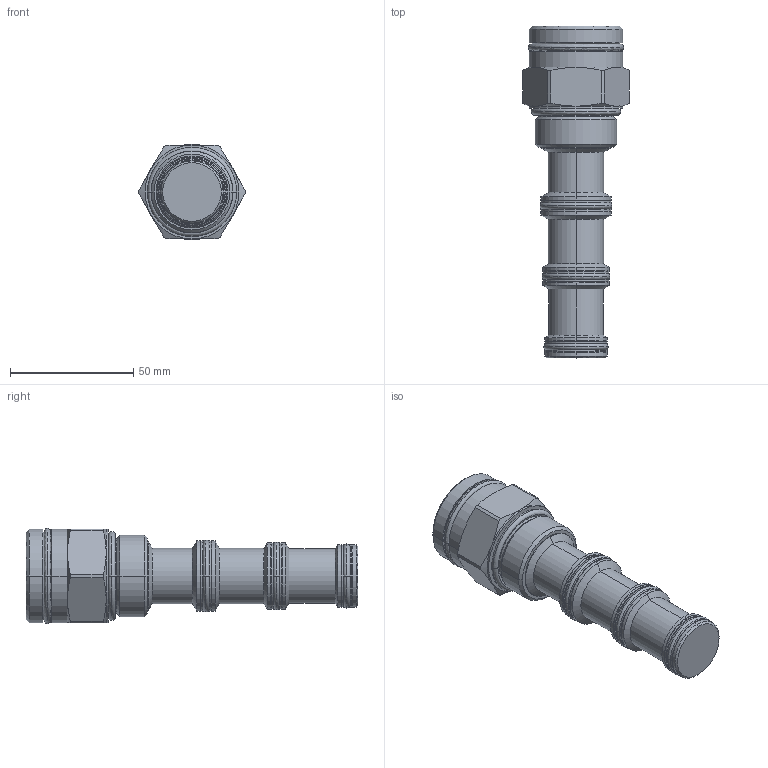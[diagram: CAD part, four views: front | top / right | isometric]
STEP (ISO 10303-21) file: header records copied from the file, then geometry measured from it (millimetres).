
FILE_DESCRIPTION((''),'2;1');
FILE_NAME('5262001_SW0001','2009-02-09T',('jcs'),(''),'PRO/ENGINEER BY PARAMETRIC TECHNOLOGY CORPORATION, 2008010','PRO/ENGINEER BY PARAMETRIC TECHNOLOGY CORPORATION, 2008010','');
FILE_SCHEMA(('CONFIG_CONTROL_DESIGN'));
Length unit declared in the file: inch
Products named in the file (1): 5262001_SW0001
Bounding box: 43.23 x 134.9 x 38.76 mm (x, y, z)
Volume: 91370.7 mm3; surface area: 22939.3 mm2
Topology: 12 solids, 12 shells, 200 faces, 412 edges, 236 vertices
Faces by surface type: cylinder 66, revolution 40, cone 34, plane 30, torus 30
Entity records: 6042 total; most frequent: CARTESIAN_POINT 1682, DIRECTION 968, ORIENTED_EDGE 824, AXIS2_PLACEMENT_3D 414, EDGE_CURVE 412, CIRCLE 254, VERTEX_POINT 236, EDGE_LOOP 222
